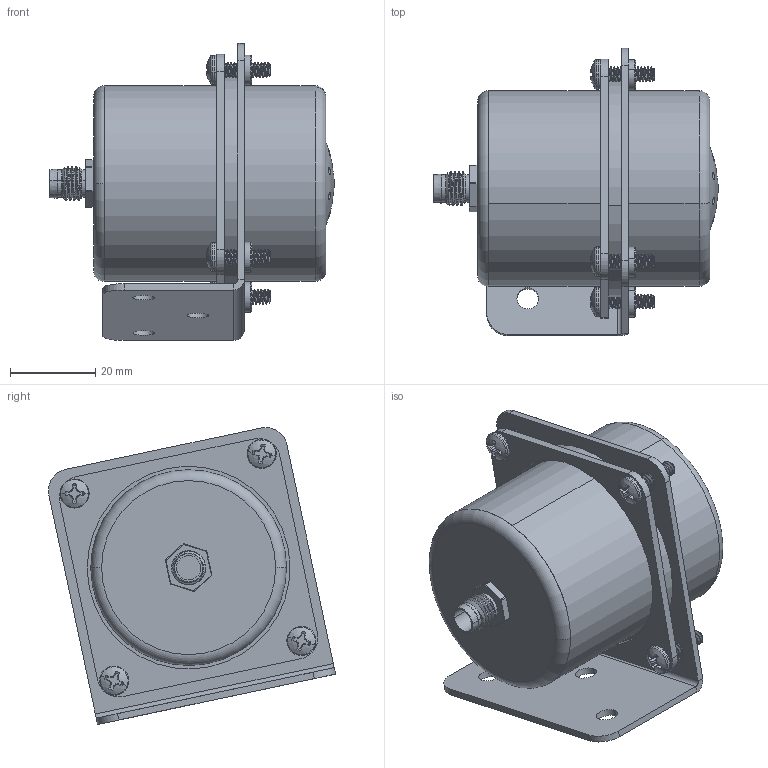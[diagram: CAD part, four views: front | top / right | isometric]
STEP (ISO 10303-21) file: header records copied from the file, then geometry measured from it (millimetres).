
FILE_DESCRIPTION (( 'STEP AP214' ), '1' );
FILE_NAME ('4ANA0105B.STEP', '2023-10-10T15:26:46', ( '' ), ( '' ), 'SwSTEP 2.0', 'SolidWorks 2022', '' );
FILE_SCHEMA (( 'AUTOMOTIVE_DESIGN' ));
Length unit declared in the file: inch
Products named in the file (13): 2BRK53; 2BRK52; 4BRK53; 1GRL01; 2PRB17; SL-632-1; 2BRK52P^4BRK52; 1SCR14_90272A148; 4BRK52; 2PRB20_DOD; 3CON05; 4ANA0105B
Assembly tree (17 placements, depth 4):
  2BRK52P^4BRK52
  4ANA0105B
    2PRB17
    3CON05
    2PRB20_DOD
    4BRK52
      2BRK52
        2BRK52
        SL-632-1  x4
    4BRK53
      2BRK53
    1SCR14_90272A148  x4
    1GRL01
Bounding box: 66.84 x 67.45 x 69.8 mm (x, y, z)
Volume: 99808.2 mm3; surface area: 31166.5 mm2
Topology: 14 solids, 14 shells, 1086 faces, 2915 edges, 1896 vertices
Faces by surface type: cylinder 571, plane 357, cone 95, torus 32, bspline 21, sphere 10
Entity records: 19231 total; most frequent: CARTESIAN_POINT 7503, ORIENTED_EDGE 2488, DIRECTION 2231, EDGE_CURVE 1244, AXIS2_PLACEMENT_3D 845, VERTEX_POINT 801, EDGE_LOOP 547, VECTOR 541
